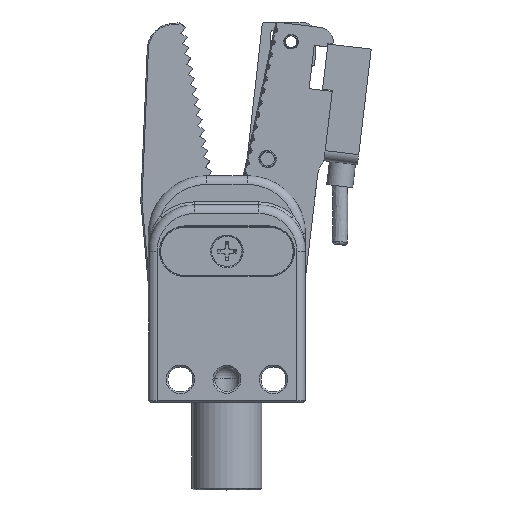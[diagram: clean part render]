
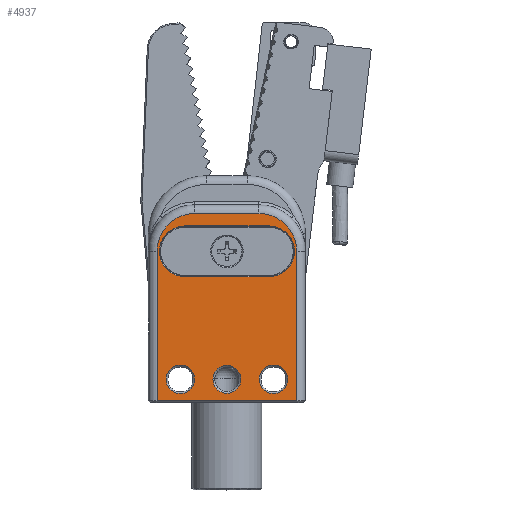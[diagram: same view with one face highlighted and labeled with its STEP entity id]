
A CAD part, top view. The second image highlights one B-rep face of the part: STEP entity #4937.
In plain terms, the highlighted planar face has unit normal (0, 0, 1).
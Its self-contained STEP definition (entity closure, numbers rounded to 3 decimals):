
#4531=FACE_BOUND('',#6567,.T.);
#4532=FACE_BOUND('',#6568,.T.);
#4533=FACE_BOUND('',#6569,.T.);
#4534=FACE_BOUND('',#6570,.T.);
#4535=FACE_BOUND('',#6571,.T.);
#4937=ADVANCED_FACE('',(#4531,#4532,#4533,#4534,#4535),#5523,.F.);
#5523=PLANE('',#15899);
#6567=EDGE_LOOP('',(#7845,#7846,#7847,#7848));
#6568=EDGE_LOOP('',(#7849,#7850,#7851,#7852,#7853,#7854));
#6569=EDGE_LOOP('',(#7855));
#6570=EDGE_LOOP('',(#7856));
#6571=EDGE_LOOP('',(#7857));
#7210=CIRCLE('',#15780,2.45);
#7213=CIRCLE('',#15785,2.45);
#7215=CIRCLE('',#15788,2.4);
#7217=CIRCLE('',#15791,4.35);
#7248=CIRCLE('',#15854,4.35);
#7259=CIRCLE('',#15874,6.5);
#7260=CIRCLE('',#15876,6.5);
#7845=ORIENTED_EDGE('',*,*,#11970,.T.);
#7846=ORIENTED_EDGE('',*,*,#11966,.T.);
#7847=ORIENTED_EDGE('',*,*,#11963,.T.);
#7848=ORIENTED_EDGE('',*,*,#11841,.T.);
#7849=ORIENTED_EDGE('',*,*,#12018,.T.);
#7850=ORIENTED_EDGE('',*,*,#12016,.T.);
#7851=ORIENTED_EDGE('',*,*,#12019,.T.);
#7852=ORIENTED_EDGE('',*,*,#11996,.T.);
#7853=ORIENTED_EDGE('',*,*,#11961,.T.);
#7854=ORIENTED_EDGE('',*,*,#11995,.T.);
#7855=ORIENTED_EDGE('',*,*,#11836,.T.);
#7856=ORIENTED_EDGE('',*,*,#11838,.T.);
#7857=ORIENTED_EDGE('',*,*,#11828,.T.);
#10758=VERTEX_POINT('',#19795);
#10766=VERTEX_POINT('',#19858);
#10768=VERTEX_POINT('',#19863);
#10771=VERTEX_POINT('',#19869);
#10772=VERTEX_POINT('',#19871);
#10863=VERTEX_POINT('',#20158);
#10864=VERTEX_POINT('',#20160);
#10865=VERTEX_POINT('',#20164);
#10867=VERTEX_POINT('',#20170);
#10883=VERTEX_POINT('',#20299);
#10884=VERTEX_POINT('',#20303);
#10889=VERTEX_POINT('',#20336);
#10890=VERTEX_POINT('',#20340);
#11828=EDGE_CURVE('',#10758,#10758,#7210,.T.);
#11836=EDGE_CURVE('',#10766,#10766,#7213,.T.);
#11838=EDGE_CURVE('',#10768,#10768,#7215,.T.);
#11841=EDGE_CURVE('',#10772,#10771,#7217,.T.);
#11961=EDGE_CURVE('',#10864,#10863,#13476,.T.);
#11963=EDGE_CURVE('',#10865,#10772,#13477,.T.);
#11966=EDGE_CURVE('',#10867,#10865,#7248,.T.);
#11970=EDGE_CURVE('',#10771,#10867,#13482,.T.);
#11995=EDGE_CURVE('',#10863,#10883,#7259,.T.);
#11996=EDGE_CURVE('',#10884,#10864,#7260,.T.);
#12016=EDGE_CURVE('',#10889,#10890,#13500,.T.);
#12018=EDGE_CURVE('',#10883,#10889,#13501,.T.);
#12019=EDGE_CURVE('',#10890,#10884,#13502,.T.);
#13476=LINE('',#20159,#14660);
#13477=LINE('',#20163,#14661);
#13482=LINE('',#20176,#14666);
#13500=LINE('',#20341,#14684);
#13501=LINE('',#20345,#14685);
#13502=LINE('',#20347,#14686);
#14660=VECTOR('',#16963,1.);
#14661=VECTOR('',#16968,1.);
#14666=VECTOR('',#16981,1.);
#14684=VECTOR('',#17073,1.);
#14685=VECTOR('',#17080,1.);
#14686=VECTOR('',#17083,1.);
#15780=AXIS2_PLACEMENT_3D('',#19794,#16746,#16747);
#15785=AXIS2_PLACEMENT_3D('',#19857,#16756,#16757);
#15788=AXIS2_PLACEMENT_3D('',#19862,#16762,#16763);
#15791=AXIS2_PLACEMENT_3D('',#19870,#16769,#16770);
#15854=AXIS2_PLACEMENT_3D('',#20169,#16973,#16974);
#15874=AXIS2_PLACEMENT_3D('',#20300,#17023,#17024);
#15876=AXIS2_PLACEMENT_3D('',#20302,#17027,#17028);
#15899=AXIS2_PLACEMENT_3D('',#20349,#17086,#17087);
#16746=DIRECTION('',(0.,0.,-1.));
#16747=DIRECTION('',(-1.,0.,0.));
#16756=DIRECTION('',(0.,0.,-1.));
#16757=DIRECTION('',(-1.,0.,0.));
#16762=DIRECTION('',(0.,0.,-1.));
#16763=DIRECTION('',(-1.,0.,0.));
#16769=DIRECTION('',(0.,0.,-1.));
#16770=DIRECTION('',(-1.,0.,0.));
#16963=DIRECTION('',(-1.,0.,0.));
#16968=DIRECTION('',(1.,0.,0.));
#16973=DIRECTION('',(0.,0.,-1.));
#16974=DIRECTION('',(-1.,0.,0.));
#16981=DIRECTION('',(-1.,0.,0.));
#17023=DIRECTION('',(0.,0.,1.));
#17024=DIRECTION('',(-1.,0.,0.));
#17027=DIRECTION('',(0.,0.,1.));
#17028=DIRECTION('',(-1.,0.,0.));
#17073=DIRECTION('',(1.,0.,0.));
#17080=DIRECTION('',(0.,-1.,0.));
#17083=DIRECTION('',(0.,1.,0.));
#17086=DIRECTION('',(0.,0.,-1.));
#17087=DIRECTION('',(1.,0.,0.));
#19794=CARTESIAN_POINT('',(80.412,-19.942,82.4));
#19795=CARTESIAN_POINT('',(77.962,-19.942,82.4));
#19857=CARTESIAN_POINT('',(96.412,-19.942,82.4));
#19858=CARTESIAN_POINT('',(93.962,-19.942,82.4));
#19862=CARTESIAN_POINT('',(88.412,-19.942,82.4));
#19863=CARTESIAN_POINT('',(86.012,-19.942,82.4));
#19869=CARTESIAN_POINT('',(95.662,-2.292,82.4));
#19870=CARTESIAN_POINT('',(95.662,2.058,82.4));
#19871=CARTESIAN_POINT('',(95.662,6.408,82.4));
#20158=CARTESIAN_POINT('',(82.912,8.558,82.4));
#20159=CARTESIAN_POINT('',(82.912,8.558,82.4));
#20160=CARTESIAN_POINT('',(93.912,8.558,82.4));
#20163=CARTESIAN_POINT('',(100.912,6.408,82.4));
#20164=CARTESIAN_POINT('',(81.162,6.408,82.4));
#20169=CARTESIAN_POINT('',(81.162,2.058,82.4));
#20170=CARTESIAN_POINT('',(81.162,-2.292,82.4));
#20176=CARTESIAN_POINT('',(100.912,-2.292,82.4));
#20299=CARTESIAN_POINT('',(76.412,2.058,82.4));
#20300=CARTESIAN_POINT('',(82.912,2.058,82.4));
#20302=CARTESIAN_POINT('',(93.912,2.058,82.4));
#20303=CARTESIAN_POINT('',(100.412,2.058,82.4));
#20336=CARTESIAN_POINT('',(76.412,-23.642,82.4));
#20340=CARTESIAN_POINT('',(100.412,-23.642,82.4));
#20341=CARTESIAN_POINT('',(100.412,-23.642,82.4));
#20345=CARTESIAN_POINT('',(76.412,-23.942,82.4));
#20347=CARTESIAN_POINT('',(100.412,2.058,82.4));
#20349=CARTESIAN_POINT('',(100.912,-23.942,82.4));
